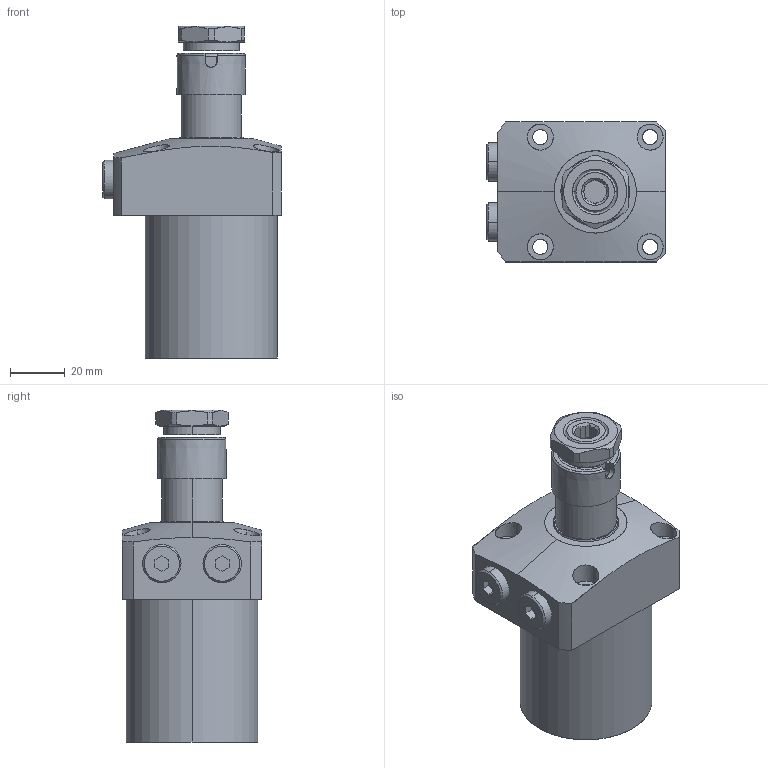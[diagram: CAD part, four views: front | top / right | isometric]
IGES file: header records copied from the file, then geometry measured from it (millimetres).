
Start section: SolidWorks IGES file using analytic representation for surfaces
Global section: file name: C:\Documents and Settings\nijil\My Documents\Clasys1\LV Series\48\0301-0101.IGS; native system: SolidWorks 2010; preprocessor: SolidWorks 2010; author: nijil; date: 130723.144520; units: millimetre
Bounding box: 65 x 51 x 121 mm (x, y, z)
Surface area: 27673.9 mm2 (no closed solid volume)
Topology: 0 solids, 0 shells, 170 faces, 2978 edges, 2978 vertices
Faces by surface type: revolution 99, bspline 71
